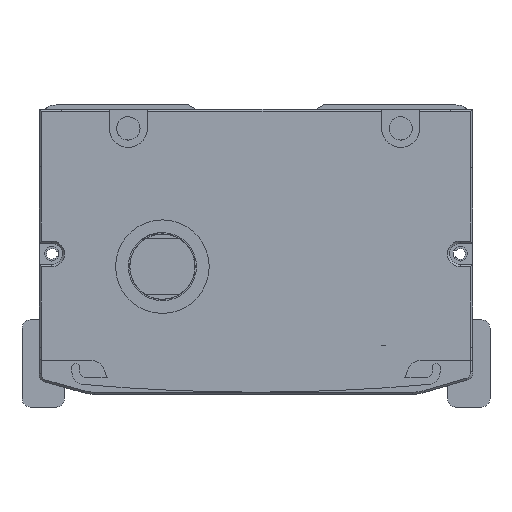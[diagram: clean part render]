
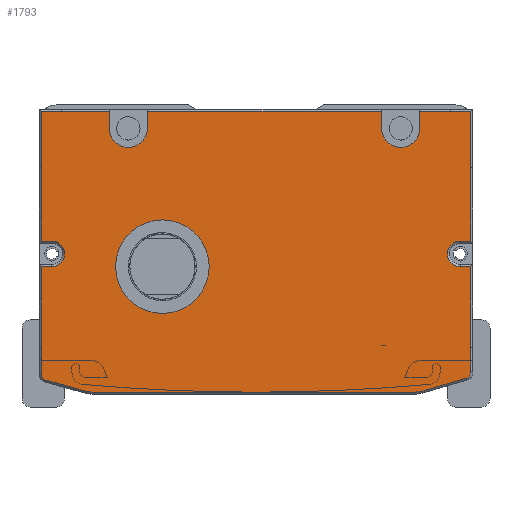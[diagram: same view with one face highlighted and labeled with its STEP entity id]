
A CAD part, front view. The second image highlights one B-rep face of the part: STEP entity #1793.
In plain terms, the highlighted planar face has unit normal (0, -1, 0).
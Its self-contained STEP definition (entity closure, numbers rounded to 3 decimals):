
#1050=FACE_BOUND('',#3703,.T.);
#1051=FACE_BOUND('',#3704,.T.);
#1793=ADVANCED_FACE('',(#1050,#1051),#2526,.F.);
#2526=PLANE('',#14938);
#3703=EDGE_LOOP('',(#6699));
#3704=EDGE_LOOP('',(#6700,#6701,#6702,#6703,#6704,#6705,#6706,#6707,#6708,
#6709,#6710,#6711,#6712,#6713,#6714,#6715,#6716,#6717,#6718,#6719,#6720,
#6721,#6722,#6723,#6724,#6725,#6726,#6727));
#4757=CIRCLE('',#14849,3.);
#4760=CIRCLE('',#14857,3.);
#4763=CIRCLE('',#14869,1.5);
#4765=CIRCLE('',#14873,9.5);
#4767=CIRCLE('',#14877,9.5);
#4769=CIRCLE('',#14881,1.5);
#4774=CIRCLE('',#14896,4.5);
#4778=CIRCLE('',#14902,4.5);
#4779=CIRCLE('',#14911,11.);
#6699=ORIENTED_EDGE('',*,*,#11324,.F.);
#6700=ORIENTED_EDGE('',*,*,#11218,.T.);
#6701=ORIENTED_EDGE('',*,*,#11114,.T.);
#6702=ORIENTED_EDGE('',*,*,#11305,.T.);
#6703=ORIENTED_EDGE('',*,*,#11118,.T.);
#6704=ORIENTED_EDGE('',*,*,#11353,.T.);
#6705=ORIENTED_EDGE('',*,*,#11124,.T.);
#6706=ORIENTED_EDGE('',*,*,#11301,.T.);
#6707=ORIENTED_EDGE('',*,*,#11128,.T.);
#6708=ORIENTED_EDGE('',*,*,#11354,.T.);
#6709=ORIENTED_EDGE('',*,*,#11222,.T.);
#6710=ORIENTED_EDGE('',*,*,#11228,.T.);
#6711=ORIENTED_EDGE('',*,*,#11231,.T.);
#6712=ORIENTED_EDGE('',*,*,#11234,.T.);
#6713=ORIENTED_EDGE('',*,*,#11236,.T.);
#6714=ORIENTED_EDGE('',*,*,#11266,.T.);
#6715=ORIENTED_EDGE('',*,*,#11270,.T.);
#6716=ORIENTED_EDGE('',*,*,#11273,.T.);
#6717=ORIENTED_EDGE('',*,*,#11276,.T.);
#6718=ORIENTED_EDGE('',*,*,#11279,.T.);
#6719=ORIENTED_EDGE('',*,*,#11282,.T.);
#6720=ORIENTED_EDGE('',*,*,#11285,.T.);
#6721=ORIENTED_EDGE('',*,*,#11287,.T.);
#6722=ORIENTED_EDGE('',*,*,#11264,.T.);
#6723=ORIENTED_EDGE('',*,*,#11254,.T.);
#6724=ORIENTED_EDGE('',*,*,#11251,.T.);
#6725=ORIENTED_EDGE('',*,*,#11248,.T.);
#6726=ORIENTED_EDGE('',*,*,#11245,.T.);
#6727=ORIENTED_EDGE('',*,*,#11240,.T.);
#9613=VERTEX_POINT('',#22049);
#9614=VERTEX_POINT('',#22051);
#9617=VERTEX_POINT('',#22058);
#9618=VERTEX_POINT('',#22060);
#9623=VERTEX_POINT('',#22071);
#9624=VERTEX_POINT('',#22073);
#9627=VERTEX_POINT('',#22080);
#9628=VERTEX_POINT('',#22082);
#9686=VERTEX_POINT('',#22268);
#9689=VERTEX_POINT('',#22276);
#9690=VERTEX_POINT('',#22277);
#9695=VERTEX_POINT('',#22288);
#9697=VERTEX_POINT('',#22294);
#9698=VERTEX_POINT('',#22299);
#9700=VERTEX_POINT('',#22305);
#9703=VERTEX_POINT('',#22313);
#9705=VERTEX_POINT('',#22319);
#9707=VERTEX_POINT('',#22325);
#9709=VERTEX_POINT('',#22331);
#9711=VERTEX_POINT('',#22337);
#9718=VERTEX_POINT('',#22361);
#9719=VERTEX_POINT('',#22365);
#9722=VERTEX_POINT('',#22372);
#9724=VERTEX_POINT('',#22378);
#9726=VERTEX_POINT('',#22384);
#9728=VERTEX_POINT('',#22390);
#9730=VERTEX_POINT('',#22396);
#9732=VERTEX_POINT('',#22402);
#9744=VERTEX_POINT('',#22475);
#11114=EDGE_CURVE('',#9614,#9613,#12787,.T.);
#11118=EDGE_CURVE('',#9618,#9617,#12791,.T.);
#11124=EDGE_CURVE('',#9624,#9623,#12797,.T.);
#11128=EDGE_CURVE('',#9628,#9627,#12801,.T.);
#11218=EDGE_CURVE('',#9686,#9614,#12874,.T.);
#11222=EDGE_CURVE('',#9689,#9690,#12878,.T.);
#11228=EDGE_CURVE('',#9690,#9695,#12884,.T.);
#11231=EDGE_CURVE('',#9695,#9697,#4757,.T.);
#11234=EDGE_CURVE('',#9697,#9698,#12888,.T.);
#11236=EDGE_CURVE('',#9698,#9700,#12890,.T.);
#11240=EDGE_CURVE('',#9703,#9686,#12894,.T.);
#11245=EDGE_CURVE('',#9705,#9703,#12899,.T.);
#11248=EDGE_CURVE('',#9707,#9705,#4760,.T.);
#11251=EDGE_CURVE('',#9709,#9707,#12903,.T.);
#11254=EDGE_CURVE('',#9711,#9709,#12906,.T.);
#11264=EDGE_CURVE('',#9718,#9711,#12914,.T.);
#11266=EDGE_CURVE('',#9700,#9719,#12916,.T.);
#11270=EDGE_CURVE('',#9719,#9722,#4763,.T.);
#11273=EDGE_CURVE('',#9722,#9724,#12921,.T.);
#11276=EDGE_CURVE('',#9724,#9726,#4765,.T.);
#11279=EDGE_CURVE('',#9726,#9728,#12925,.T.);
#11282=EDGE_CURVE('',#9728,#9730,#4767,.T.);
#11285=EDGE_CURVE('',#9730,#9732,#12929,.T.);
#11287=EDGE_CURVE('',#9732,#9718,#4769,.T.);
#11301=EDGE_CURVE('',#9623,#9628,#4774,.T.);
#11305=EDGE_CURVE('',#9613,#9618,#4778,.T.);
#11324=EDGE_CURVE('',#9744,#9744,#4779,.T.);
#11353=EDGE_CURVE('',#9617,#9624,#12980,.T.);
#11354=EDGE_CURVE('',#9627,#9689,#12981,.T.);
#12787=LINE('',#22050,#13731);
#12791=LINE('',#22059,#13735);
#12797=LINE('',#22072,#13741);
#12801=LINE('',#22081,#13745);
#12874=LINE('',#22267,#13818);
#12878=LINE('',#22275,#13822);
#12884=LINE('',#22289,#13828);
#12888=LINE('',#22301,#13832);
#12890=LINE('',#22304,#13834);
#12894=LINE('',#22312,#13838);
#12899=LINE('',#22322,#13843);
#12903=LINE('',#22334,#13847);
#12906=LINE('',#22340,#13850);
#12914=LINE('',#22360,#13858);
#12916=LINE('',#22364,#13860);
#12921=LINE('',#22379,#13865);
#12925=LINE('',#22391,#13869);
#12929=LINE('',#22403,#13873);
#12980=LINE('',#22537,#13924);
#12981=LINE('',#22538,#13925);
#13731=VECTOR('',#17131,1.);
#13735=VECTOR('',#17137,1.);
#13741=VECTOR('',#17145,1.);
#13745=VECTOR('',#17151,1.);
#13818=VECTOR('',#17318,1.);
#13822=VECTOR('',#17324,1.);
#13828=VECTOR('',#17332,1.);
#13832=VECTOR('',#17344,1.);
#13834=VECTOR('',#17348,1.);
#13838=VECTOR('',#17354,1.);
#13843=VECTOR('',#17361,1.);
#13847=VECTOR('',#17373,1.);
#13850=VECTOR('',#17378,1.);
#13858=VECTOR('',#17400,1.);
#13860=VECTOR('',#17404,1.);
#13865=VECTOR('',#17417,1.);
#13869=VECTOR('',#17429,1.);
#13873=VECTOR('',#17441,1.);
#13924=VECTOR('',#17608,1.);
#13925=VECTOR('',#17609,1.);
#14849=AXIS2_PLACEMENT_3D('',#22295,#17337,#17338);
#14857=AXIS2_PLACEMENT_3D('',#22328,#17367,#17368);
#14869=AXIS2_PLACEMENT_3D('',#22373,#17410,#17411);
#14873=AXIS2_PLACEMENT_3D('',#22385,#17422,#17423);
#14877=AXIS2_PLACEMENT_3D('',#22397,#17434,#17435);
#14881=AXIS2_PLACEMENT_3D('',#22406,#17445,#17446);
#14896=AXIS2_PLACEMENT_3D('',#22432,#17484,#17485);
#14902=AXIS2_PLACEMENT_3D('',#22440,#17496,#17497);
#14911=AXIS2_PLACEMENT_3D('',#22474,#17532,#17533);
#14938=AXIS2_PLACEMENT_3D('',#22539,#17610,#17611);
#17131=DIRECTION('',(0.,0.,-1.));
#17137=DIRECTION('',(0.,0.,1.));
#17145=DIRECTION('',(0.,0.,-1.));
#17151=DIRECTION('',(0.,0.,1.));
#17318=DIRECTION('',(-1.,0.,0.));
#17324=DIRECTION('',(0.,0.,-1.));
#17332=DIRECTION('',(1.,0.,0.));
#17337=DIRECTION('',(0.,1.,0.));
#17338=DIRECTION('',(0.,0.,1.));
#17344=DIRECTION('',(-1.,0.,0.));
#17348=DIRECTION('',(0.,0.,-1.));
#17354=DIRECTION('',(0.,0.,1.));
#17361=DIRECTION('',(1.,0.,0.));
#17367=DIRECTION('',(0.,1.,0.));
#17368=DIRECTION('',(0.,0.,1.));
#17373=DIRECTION('',(-1.,0.,0.));
#17378=DIRECTION('',(0.,0.,1.));
#17400=DIRECTION('',(0.,0.,1.));
#17404=DIRECTION('',(0.,0.,-1.));
#17410=DIRECTION('',(0.,-1.,0.));
#17411=DIRECTION('',(0.,0.,1.));
#17417=DIRECTION('',(0.963,0.,-0.269));
#17422=DIRECTION('',(0.,-1.,0.));
#17423=DIRECTION('',(0.,0.,1.));
#17429=DIRECTION('',(1.,0.,0.));
#17434=DIRECTION('',(0.,-1.,0.));
#17435=DIRECTION('',(0.,0.,1.));
#17441=DIRECTION('',(0.959,0.,0.282));
#17445=DIRECTION('',(0.,-1.,0.));
#17446=DIRECTION('',(0.,0.,1.));
#17484=DIRECTION('',(0.,1.,0.));
#17485=DIRECTION('',(0.,0.,1.));
#17496=DIRECTION('',(0.,1.,0.));
#17497=DIRECTION('',(0.,0.,1.));
#17532=DIRECTION('',(0.,-1.,0.));
#17533=DIRECTION('',(0.,0.,1.));
#17608=DIRECTION('',(-1.,0.,0.));
#17609=DIRECTION('',(-1.,0.,0.));
#17610=DIRECTION('',(0.,1.,0.));
#17611=DIRECTION('',(1.,0.,0.));
#22049=CARTESIAN_POINT('',(35.308,-707.5,-5.5));
#22050=CARTESIAN_POINT('',(35.308,-707.5,-1.));
#22051=CARTESIAN_POINT('',(35.308,-707.5,-1.5));
#22058=CARTESIAN_POINT('',(26.308,-707.5,-1.5));
#22059=CARTESIAN_POINT('',(26.308,-707.5,-1.));
#22060=CARTESIAN_POINT('',(26.308,-707.5,-5.5));
#22071=CARTESIAN_POINT('',(-28.692,-707.5,-5.5));
#22072=CARTESIAN_POINT('',(-28.692,-707.5,-1.));
#22073=CARTESIAN_POINT('',(-28.692,-707.5,-1.5));
#22080=CARTESIAN_POINT('',(-37.692,-707.5,-1.5));
#22081=CARTESIAN_POINT('',(-37.692,-707.5,-1.));
#22082=CARTESIAN_POINT('',(-37.692,-707.5,-5.5));
#22267=CARTESIAN_POINT('',(-53.692,-707.5,-1.5));
#22268=CARTESIAN_POINT('',(47.308,-707.5,-1.5));
#22275=CARTESIAN_POINT('',(-53.692,-707.5,-32.5));
#22276=CARTESIAN_POINT('',(-53.692,-707.5,-1.5));
#22277=CARTESIAN_POINT('',(-53.692,-707.5,-32.));
#22288=CARTESIAN_POINT('',(-51.192,-707.5,-32.));
#22289=CARTESIAN_POINT('',(-3.192,-707.5,-32.));
#22294=CARTESIAN_POINT('',(-51.192,-707.5,-38.));
#22295=CARTESIAN_POINT('',(-51.192,-707.5,-35.));
#22299=CARTESIAN_POINT('',(-53.692,-707.5,-38.));
#22301=CARTESIAN_POINT('',(-3.192,-707.5,-38.));
#22304=CARTESIAN_POINT('',(-53.692,-707.5,-57.));
#22305=CARTESIAN_POINT('',(-53.692,-707.5,-57.));
#22312=CARTESIAN_POINT('',(47.308,-707.5,-1.5));
#22313=CARTESIAN_POINT('',(47.308,-707.5,-32.));
#22319=CARTESIAN_POINT('',(44.808,-707.5,-32.));
#22322=CARTESIAN_POINT('',(-3.192,-707.5,-32.));
#22325=CARTESIAN_POINT('',(44.808,-707.5,-38.));
#22328=CARTESIAN_POINT('',(44.808,-707.5,-35.));
#22331=CARTESIAN_POINT('',(47.308,-707.5,-38.));
#22334=CARTESIAN_POINT('',(-3.192,-707.5,-38.));
#22337=CARTESIAN_POINT('',(47.308,-707.5,-57.));
#22340=CARTESIAN_POINT('',(47.308,-707.5,-37.5));
#22360=CARTESIAN_POINT('',(47.308,-707.5,-37.5));
#22361=CARTESIAN_POINT('',(47.308,-707.5,-62.758));
#22364=CARTESIAN_POINT('',(-53.692,-707.5,-59.712));
#22365=CARTESIAN_POINT('',(-53.692,-707.5,-63.212));
#22372=CARTESIAN_POINT('',(-52.596,-707.5,-64.657));
#22373=CARTESIAN_POINT('',(-52.192,-707.5,-63.212));
#22378=CARTESIAN_POINT('',(-43.674,-707.5,-67.15));
#22379=CARTESIAN_POINT('',(-43.674,-707.5,-67.15));
#22384=CARTESIAN_POINT('',(-41.118,-707.5,-67.5));
#22385=CARTESIAN_POINT('',(-41.118,-707.5,-58.));
#22390=CARTESIAN_POINT('',(33.631,-707.5,-67.5));
#22391=CARTESIAN_POINT('',(33.631,-707.5,-67.5));
#22396=CARTESIAN_POINT('',(36.312,-707.5,-67.114));
#22397=CARTESIAN_POINT('',(33.631,-707.5,-58.));
#22402=CARTESIAN_POINT('',(46.231,-707.5,-64.197));
#22403=CARTESIAN_POINT('',(46.231,-707.5,-64.197));
#22406=CARTESIAN_POINT('',(45.808,-707.5,-62.758));
#22432=CARTESIAN_POINT('',(-33.192,-707.5,-5.5));
#22440=CARTESIAN_POINT('',(30.808,-707.5,-5.5));
#22474=CARTESIAN_POINT('',(-25.192,-707.5,-38.));
#22475=CARTESIAN_POINT('',(-25.192,-707.5,-27.));
#22537=CARTESIAN_POINT('',(-53.692,-707.5,-1.5));
#22538=CARTESIAN_POINT('',(-53.692,-707.5,-1.5));
#22539=CARTESIAN_POINT('',(-3.192,-707.5,-1.));
